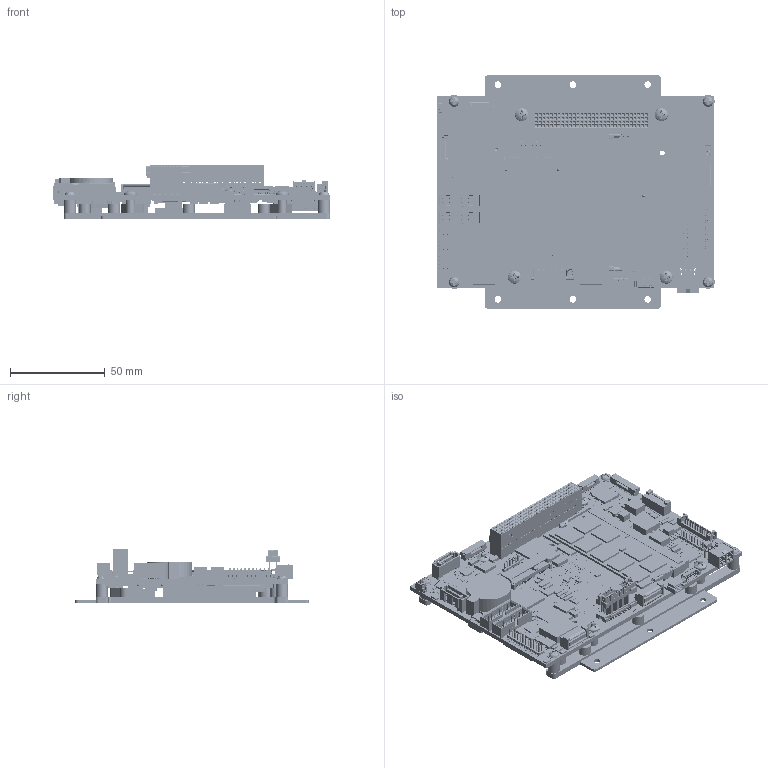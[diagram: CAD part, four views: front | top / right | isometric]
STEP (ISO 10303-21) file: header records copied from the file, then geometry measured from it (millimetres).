
FILE_DESCRIPTION((''),'2;1');
FILE_NAME('7122200_VENUS_REVA_ASM','2017-06-05T',('user'),(''),'PRO/ENGINEER BY PARAMETRIC TECHNOLOGY CORPORATION, 2012130','PRO/ENGINEER BY PARAMETRIC TECHNOLOGY CORPORATION, 2012130','');
FILE_SCHEMA(('CONFIG_CONTROL_DESIGN'));
Products named in the file (182): VENUS_TOP-04OCT16; VENUS_BOT_04OCT16; 67800-5025; SM10B-GHS-TB; 264-61303-02_C_3D-STEP; SM20B-GHDS-GAN-TF; SM12B-GHS-TB; SM08B-GHS-TB; K3D_MM60_52B1; K3D-NT4-V1_JAE_PROPRIETARY; ASP-142781-07; _BSH-030-01-D-A_SOCKET; _C-126-030-01; ASM0002_ASM; BSH-030-01-F-D-A-TR_ASM; H21571_-_SOLDER_BALL; H21571_-_BALL_ANYWHERE_ARCHIVE_; H21571_-_SUBSTRATE_001; H21571_-_KOZ1_BGA_KOZ1; H21571_ARCHIVE_VAULT_001_ASM; H23934_-_EPOXY_FILLET; BOSS-EXTRUDE1; BOSS-EXTRUDE2; H23934_-_DIE__170_DIE_ASM; H23934_-_HR_KOZ; H23951_-_BALL_PRE-SMT; H23951_-_BALL_PATTERN_ARCHIVE_V_ASM; ASM0003_ASM; H23951_R10_FINAL_ASM; DF13A-30DP-1_25V_X_8A_S_-315300; SAMTEC-IPL1-104-01-L-D-RA-K; 532610671; DF13A-2P-1_25V-64740; DF13A-2P-1_25V-65070_ASM; MSBR-20-1; MSBR-19-1; MSBR-18-1; MSBR-17-1; MSBR-16-1; MSBR-15-1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
Assembly tree (3441 placements, depth 6):
  7122200_VENUS_REVA_ASM
    7122200_VENUS_REVA_PCBA_ASM
      VENUS_TOP-04OCT16
      VENUS_BOT_04OCT16
      67800-5025  x2
      SM10B-GHS-TB  x3
      264-61303-02_C_3D-STEP
      SM20B-GHDS-GAN-TF  x3
      SM12B-GHS-TB  x2
      SM08B-GHS-TB
      K3D_MM60_52B1  x2
      K3D-NT4-V1_JAE_PROPRIETARY
      ASP-142781-07
      BSH-030-01-F-D-A-TR_ASM
        ASM0002_ASM
          _BSH-030-01-D-A_SOCKET
          _C-126-030-01
      H23951_R10_FINAL_ASM
        ASM0003_ASM
          H21571_ARCHIVE_VAULT_001_ASM
            H21571_-_SOLDER_BALL  x37
            H21571_-_BALL_ANYWHERE_ARCHIVE_
            H21571_-_SUBSTRATE_001
            H21571_-_KOZ1_BGA_KOZ1
          H23934_-_EPOXY_FILLET
          H23934_-_DIE__170_DIE_ASM
            BOSS-EXTRUDE1
            BOSS-EXTRUDE2
          H23934_-_HR_KOZ
          H23951_-_BALL_PATTERN_ARCHIVE_V_ASM
            H23951_-_BALL_PRE-SMT  x1356
      DF13A-30DP-1_25V_X_8A_S_-315300
      SAMTEC-IPL1-104-01-L-D-RA-K
      532610671
      DF13A-2P-1_25V-65070_ASM
        DF13A-2P-1_25V-64740
      WUIR-19A1G4BU3N_ASM  x2
        MSBR-20-1
        MSBR-19-1
        MSBR-18-1
        MSBR-17-1
        MSBR-16-1
        MSBR-15-1
        MSBR-14-1
        MSBR-13-1
        MSBR-12-1
        MSBR-11-1
        MSBR-10-1
        MSBR-9-1
        MSBR-8-1
        MSBR-7-1
        MSBR-6-1
        MSBR-5-1
        MSBR-4-1
        MSBR-3-1
        MSBR-2-1
        MSBR-1-1
      AS0A826-H2SB-7H_317-0000-2252_C
      DDR4_MM_ASM
        ASM0004_ASM
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Bounding box: 146.35 x 123.2 x 28.74 mm (x, y, z)
Volume: 265087.1 mm3; surface area: 286032.8 mm2
Topology: 3317 solids, 3649 shells, 54144 faces, 142913 edges, 89542 vertices
Faces by surface type: plane 33451, cylinder 11664, sphere 5592, torus 1965, bspline 1078, extrusion 205, cone 189
Entity records: 1090883 total; most frequent: CARTESIAN_POINT 223957, DIRECTION 184824, ORIENTED_EDGE 176579, EDGE_CURVE 88451, VECTOR 63528, LINE 63376, AXIS2_PLACEMENT_3D 60648, VERTEX_POINT 55927
